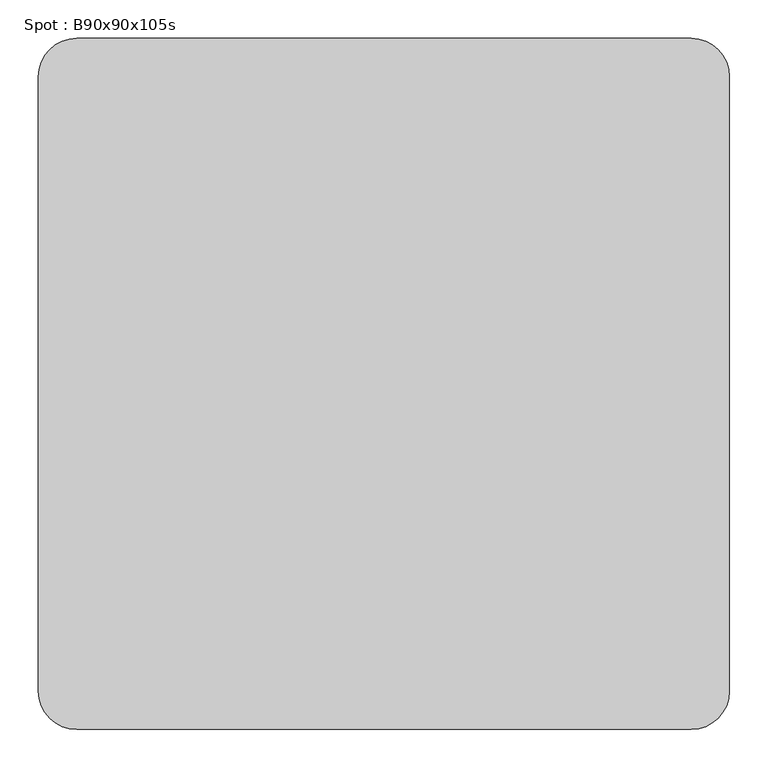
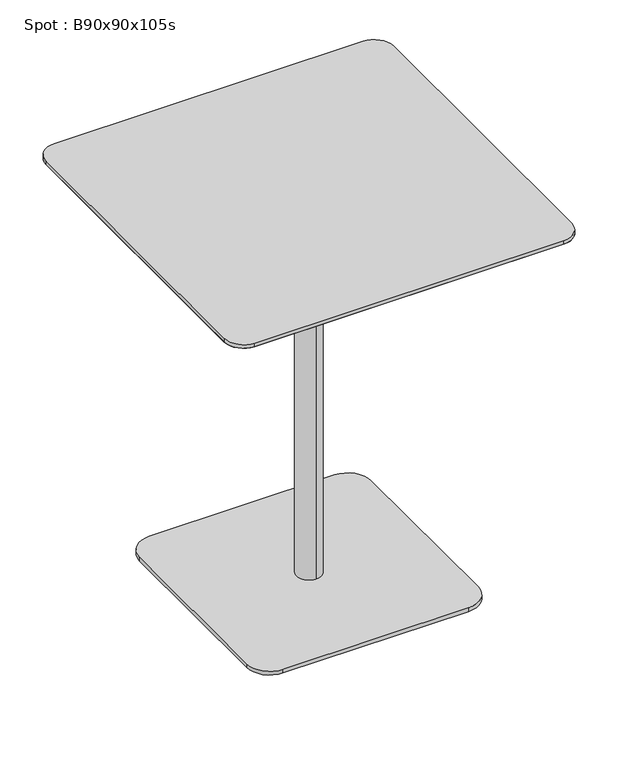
"""IFC4 building model written with IfcOpenShell, lengths in millimetres: furniture geometry, Spot : B90x90x105s."""

from ifc_helpers import new_model, si_unit, point, frame, frame_2d, origin, origin_with_axes, place, context, project, spatial, polyline, circle_curve, trimmed, segment, composite_curve, outline, extrude, source, transform, mapped, element, save
from ifc_brep_helpers import plane_surface, cylinder_surface, revolved_surface, advanced_brep


def spot_b90x90x105s_5b0af334(model_context):
    return source(origin(), model_context, "Body", "SolidModel", [
        advanced_brep(
        [(-400.0, -400.0, 1028.0), (-400.0, 400.0, 1028.0), (400.0, 400.0, 1028.0), (400.0, -400.0, 1028.0), (-450.0, -400.0, 1040.0), (-400.0, -450.0, 1040.0), (400.0, -450.0, 1040.0), (450.0, -400.0, 1040.0), (450.0, 400.0, 1040.0), (400.0, 450.0, 1040.0), (-400.0, 450.0, 1040.0), (-450.0, 400.0, 1040.0)],
        [
            (0, 1),
            (1, 2),
            (2, 3),
            (3, 0),
            (4, 5, circle_curve(frame((-400.0, -400.0, 1040.0), z_axis=(0.0, 0.0, 1.0), x_axis=(0.0, -1.0, 0.0)), 50.0)),
            (5, 6),
            (6, 7, circle_curve(frame((400.0, -400.0, 1040.0), z_axis=(0.0, 0.0, 1.0), x_axis=(1.0, 0.0, 0.0)), 50.0)),
            (7, 8),
            (8, 9, circle_curve(frame((400.0, 400.0, 1040.0), z_axis=(0.0, 0.0, 1.0), x_axis=(0.0, 1.0, 0.0)), 50.0)),
            (9, 10),
            (10, 11, circle_curve(frame((-400.0, 400.0, 1040.0), z_axis=(0.0, 0.0, 1.0), x_axis=(-1.0, 0.0, 0.0)), 50.0)),
            (11, 4),
            (4, 0),
            (0, 5),
            (3, 6),
            (3, 7),
            (2, 8),
            (2, 9),
            (1, 10),
            (1, 11),
        ],
        [
            plane_surface(frame((0.0, 0.0, 1028.0), z_axis=(0.0, 0.0, -1.0), x_axis=(-1.0, 0.0, 0.0))),
            plane_surface(frame((0.0, 0.0, 1040.0), z_axis=(0.0, 0.0, 1.0), x_axis=(-1.0, 0.0, 0.0))),
            revolved_surface(polyline([(-400.0, -400.0, 1028.0), (-400.0, -450.0, 1040.0)]), (-400.0, -400.0, 1028.0), (0.0, 0.0, 1.0)),
            plane_surface(frame((0.0, -450.0, 1040.0), z_axis=(0.0, -0.23337295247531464, -0.9723873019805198), x_axis=(-1.0, 0.0, 0.0))),
            revolved_surface(polyline([(400.0, -400.0, 1028.0), (450.0, -400.0, 1040.0)]), (400.0, -400.0, 1028.0), (0.0, 0.0, 1.0)),
            plane_surface(frame((450.0, 0.0, 1040.0), z_axis=(0.23337295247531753, 0.0, -0.9723873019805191), x_axis=(0.0, -1.0, 0.0))),
            revolved_surface(polyline([(400.0, 400.0, 1028.0), (400.0, 450.0, 1040.0)]), (400.0, 400.0, 1028.0), (0.0, 0.0, 1.0)),
            plane_surface(frame((0.0, 450.0, 1040.0), z_axis=(0.0, 0.2333729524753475, -0.9723873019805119), x_axis=(1.0, 0.0, 0.0))),
            revolved_surface(polyline([(-400.0, 400.0, 1028.0), (-450.0, 400.0, 1040.0)]), (-400.0, 400.0, 1028.0), (0.0, 0.0, 1.0)),
            plane_surface(frame((-450.0, 0.0, 1040.0), z_axis=(-0.2333729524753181, 0.0, -0.9723873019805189), x_axis=(0.0, 1.0, 0.0))),
        ],
        [
            (0, [[1, 2, 3, 4]]),
            (1, [[5, 6, 7, 8, 9, 10, 11, 12]]),
            (2, [[-5, 13, 14]]),
            (3, [[-6, -14, -4, 15]]),
            (4, [[-7, -15, 16]]),
            (5, [[-8, -16, -3, 17]]),
            (6, [[-9, -17, 18]]),
            (7, [[-10, -18, -2, 19]]),
            (8, [[-11, -19, 20]]),
            (9, [[-12, -20, -1, -13]]),
        ],
    ),
        extrude(outline(composite_curve([segment(trimmed(circle_curve(frame_2d((400.0, 400.0)), 50.0), [point((400.0, 450.0))], [point((450.0, 400.0))], False, "CARTESIAN"), True, "CONTINUOUS"), segment(polyline([(450.0, 400.0), (450.0, -400.0)]), True, "CONTINUOUS"), segment(trimmed(circle_curve(frame_2d((400.0, -400.0)), 50.0), [point((450.0, -400.0))], [point((400.0, -450.0))], False, "CARTESIAN"), True, "CONTINUOUS"), segment(polyline([(400.0, -450.0), (-400.0, -450.0)]), True, "CONTINUOUS"), segment(trimmed(circle_curve(frame_2d((-400.0, -400.0)), 50.0), [point((-400.0, -450.0))], [point((-450.0, -400.0))], False, "CARTESIAN"), True, "CONTINUOUS"), segment(polyline([(-450.0, -400.0), (-450.0, 400.0)]), True, "CONTINUOUS"), segment(trimmed(circle_curve(frame_2d((-400.0, 400.0)), 50.0), [point((-450.0, 400.0))], [point((-400.0, 450.0))], False, "CARTESIAN"), True, "CONTINUOUS"), segment(polyline([(-400.0, 450.0), (400.0, 450.0)]), True, "CONTINUOUS")], self_intersect=False)), frame((0.0, 0.0, 1040.0), z_axis=(0.0, 0.0, 1.0), x_axis=(1.0, 0.0, 0.0)), (0.0, 0.0, 1.0), 10.0),
        extrude(outline(composite_curve([segment(trimmed(circle_curve(frame_2d((240.0, 240.0)), 60.0), [point((240.0, 300.0))], [point((300.0, 240.0))], False, "CARTESIAN"), True, "CONTINUOUS"), segment(polyline([(300.0, 240.0), (300.0, -240.0)]), True, "CONTINUOUS"), segment(trimmed(circle_curve(frame_2d((240.0, -240.0)), 60.0), [point((300.0, -240.0))], [point((240.0, -300.0))], False, "CARTESIAN"), True, "CONTINUOUS"), segment(polyline([(240.0, -300.0), (-240.0, -300.0)]), True, "CONTINUOUS"), segment(trimmed(circle_curve(frame_2d((-240.0, -240.0)), 60.0), [point((-240.0, -300.0))], [point((-300.0, -240.0))], False, "CARTESIAN"), True, "CONTINUOUS"), segment(polyline([(-300.0, -240.0), (-300.0, 240.0)]), True, "CONTINUOUS"), segment(trimmed(circle_curve(frame_2d((-240.0, 240.0)), 60.0), [point((-300.0, 240.0))], [point((-240.0, 300.0))], False, "CARTESIAN"), True, "CONTINUOUS"), segment(polyline([(-240.0, 300.0), (240.0, 300.0)]), True, "CONTINUOUS")], self_intersect=False)), origin_with_axes(), (0.0, 0.0, 1.0), 10.0),
        advanced_brep(
        [(0.0, 32.0, 10.0), (0.0, -32.0, 10.0), (0.0, -32.0, 997.406916), (0.0, 32.0, 997.406916), (0.0, 0.0, 10.0), (0.0, 150.0, 1028.0), (0.0, -150.0, 1028.0), (0.0, 0.0, 1028.0), (0.0, 150.0, 1016.7213673), (0.0, -150.0, 1016.7213673)],
        [
            (0, 1, circle_curve(frame((0.0, 0.0, 10.0), z_axis=(0.0, 0.0, 1.0), x_axis=(0.0, -1.0, 0.0)), 32.0)),
            (1, 2),
            (2, 3, circle_curve(frame((0.0, 0.0, 997.406916), z_axis=(0.0, 0.0, -1.0), x_axis=(0.0, -1.0, 0.0)), 32.0)),
            (3, 0),
            (1, 0, circle_curve(frame((0.0, 0.0, 10.0), z_axis=(0.0, 0.0, 1.0), x_axis=(0.0, -1.0, 0.0)), 32.0)),
            (3, 2, circle_curve(frame((0.0, 0.0, 997.406916), z_axis=(0.0, 0.0, -1.0), x_axis=(0.0, -1.0, 0.0)), 32.0)),
            (4, 1),
            (0, 4),
            (5, 6, circle_curve(frame((0.0, 0.0, 1028.0), z_axis=(0.0, 0.0, 1.0), x_axis=(0.0, -1.0, 0.0)), 150.0)),
            (6, 7),
            (7, 5),
            (6, 5, circle_curve(frame((0.0, 0.0, 1028.0), z_axis=(0.0, 0.0, 1.0), x_axis=(0.0, -1.0, 0.0)), 150.0)),
            (8, 9, circle_curve(frame((0.0, 0.0, 1016.7213673), z_axis=(0.0, 0.0, 1.0), x_axis=(0.0, -1.0, 0.0)), 150.0)),
            (9, 6),
            (5, 8),
            (9, 8, circle_curve(frame((0.0, 0.0, 1016.7213673), z_axis=(0.0, 0.0, 1.0), x_axis=(0.0, -1.0, 0.0)), 150.0)),
            (2, 9),
            (8, 3),
        ],
        [
            cylinder_surface(frame((0.0, 0.0, 1390.0), z_axis=(0.0, 0.0, -1.0), x_axis=(0.0, -1.0, 0.0)), 32.0),
            plane_surface(frame((0.0, 0.0, 10.0), z_axis=(0.0, 0.0, -1.0), x_axis=(0.0, -1.0, 0.0))),
            plane_surface(frame((0.0, 0.0, 1028.0), z_axis=(0.0, 0.0, 1.0), x_axis=(0.0, -1.0, 0.0))),
            cylinder_surface(frame((0.0, 0.0, 1390.0), z_axis=(0.0, 0.0, -1.0), x_axis=(0.0, -1.0, 0.0)), 150.0),
            revolved_surface(polyline([(0.0, -150.0, 1016.7213673), (0.0, -32.0, 997.406916)]), (0.0, 0.0, 1390.0), (0.0, 0.0, -1.0)),
        ],
        [
            (0, [[1, 2, 3, 4]]),
            (0, [[5, -4, 6, -2]]),
            (1, [[7, -1, 8]]),
            (1, [[-8, -5, -7]]),
            (2, [[9, 10, 11]]),
            (2, [[12, -11, -10]]),
            (3, [[13, 14, -9, 15]]),
            (3, [[16, -15, -12, -14]]),
            (4, [[-3, 17, -13, 18]]),
            (4, [[-6, -18, -16, -17]]),
        ],
    ),
        extrude(outline(polyline([(0.0, 0.0), (-20.0, 0.0), (-20.0, 20.0), (0.0, 20.0), (0.0, 0.0)])), origin_with_axes(), (0.0, 0.0, 1.0), 10.0),
    ])


if __name__ == "__main__":
    model = new_model("IFC4")
    model_context = context("Model", 3, world=origin())
    ifc_project = project(units=[si_unit("LENGTHUNIT", "METRE", prefix="MILLI")], contexts=[model_context])
    site = spatial("IfcSite", under=ifc_project)
    building = spatial("IfcBuilding", under=site)
    placement = place(None, origin())
    spot_b90x90x105s_shape = spot_b90x90x105s_5b0af334(model_context)
    element("IfcFurniture", 1, ObjectType="Spot : B90x90x105s", at=placement, inside=building, context=model_context, shape_type="MappedRepresentation", body=[
        mapped(spot_b90x90x105s_shape, transform((0.0, 0.0, 0.0), x_axis=(1.0, 0.0, 0.0), y_axis=(0.0, 1.0, 0.0), z_axis=(0.0, 0.0, 1.0))),
    ])
    save(model, "model.ifc")
